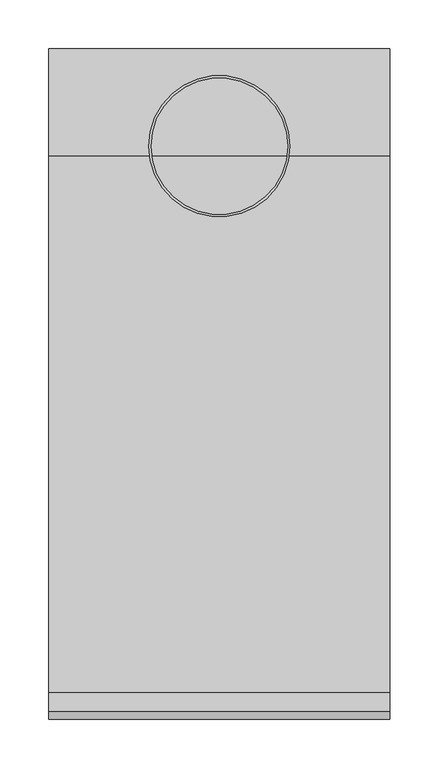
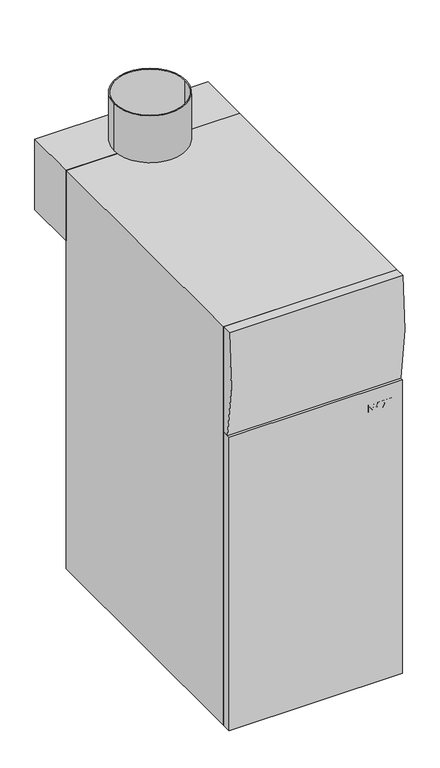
"""IFC4 building model written with IfcOpenShell, lengths in millimetres: proxy geometry, BAXI_ГазовыйКотел_Slim-iN : BAXI_Газовый котел_Slim_1.300_iN."""

from ifc_helpers import new_model, si_unit, point, frame, frame_2d, origin, origin_with_axes, place, context, project, spatial, polyline, circle_curve, trimmed, segment, composite_curve, outline, extrude, source, transform, mapped, element, save


def mechanical_equipment_463e2e80(model_context):
    return source(origin(), model_context, "Body", "SweptSolid", [
        extrude(outline(composite_curve([segment(trimmed(circle_curve(frame_2d((0.0, -100.0)), 72.5), [point((-72.5, -100.0))], [point((72.5, -100.0))], False, "CARTESIAN"), True, "CONTINUOUS"), segment(trimmed(circle_curve(frame_2d((0.0, -100.0)), 72.5), [point((72.5, -100.0))], [point((-72.5, -100.0))], False, "CARTESIAN"), True, "CONTINUOUS")], self_intersect=False), holes=[composite_curve([segment(trimmed(circle_curve(frame_2d((0.0, -100.0)), 70.0), [point((-70.0, -100.0))], [point((70.0, -100.0))], True, "CARTESIAN"), True, "CONTINUOUS"), segment(trimmed(circle_curve(frame_2d((0.0, -100.0)), 70.0), [point((70.0, -100.0))], [point((-70.0, -100.0))], True, "CARTESIAN"), True, "CONTINUOUS")], self_intersect=False)]), frame((0.0, 0.0, 850.0), z_axis=(0.0, 0.0, 1.0), x_axis=(1.0, 0.0, 0.0)), (0.0, 0.0, 1.0), 100.0),
        extrude(outline(polyline([(175.0, 0.0), (175.0, -110.0), (-175.0, -110.0), (-175.0, 0.0), (175.0, 0.0)])), frame((0.0, 0.0, 700.0), z_axis=(0.0, 0.0, 1.0), x_axis=(1.0, 0.0, 0.0)), (0.0, 0.0, 1.0), 150.0),
        extrude(outline(composite_curve([segment(polyline([(-660.5, 627.0), (-674.6849095, 627.0)]), True, "CONTINUOUS"), segment(trimmed(circle_curve(frame_2d((-72.7028253, 753.9906172)), 615.2308887), [point((-674.6849095, 627.0))], [point((-680.396206, 850.0))], False, "CARTESIAN"), True, "CONTINUOUS"), segment(polyline([(-680.396206, 850.0), (-660.5, 850.0), (-660.5, 627.0)]), True, "CONTINUOUS")], self_intersect=False)), frame((-175.0, 0.0, 0.0), z_axis=(1.0, 0.0, 0.0), x_axis=(0.0, 1.0, 0.0)), (0.0, 0.0, 1.0), 350.0),
        extrude(outline(polyline([(175.0, -660.5), (175.0, -680.0), (-175.0, -680.0), (-175.0, -660.5), (175.0, -660.5)])), origin_with_axes(), (0.0, 0.0, 1.0), 627.0),
        extrude(outline(composite_curve([segment(trimmed(circle_curve(frame_2d((435.0, 133.0)), 7.5), [point((427.5, 133.0))], [point((442.5, 133.0))], False, "CARTESIAN"), True, "CONTINUOUS"), segment(trimmed(circle_curve(frame_2d((435.0, 133.0)), 7.5), [point((442.5, 133.0))], [point((427.5, 133.0))], False, "CARTESIAN"), True, "CONTINUOUS")], self_intersect=False)), frame((0.0, -110.0, 0.0), z_axis=(0.0, 1.0, 0.0), x_axis=(0.0, 0.0, 1.0)), (0.0, 0.0, 1.0), 7.0),
        extrude(outline(composite_curve([segment(trimmed(circle_curve(frame_2d((635.0, -133.0)), 16.0), [point((619.0, -133.0))], [point((651.0, -133.0))], False, "CARTESIAN"), True, "CONTINUOUS"), segment(trimmed(circle_curve(frame_2d((635.0, -133.0)), 16.0), [point((651.0, -133.0))], [point((619.0, -133.0))], False, "CARTESIAN"), True, "CONTINUOUS")], self_intersect=False)), frame((0.0, -110.0, 0.0), z_axis=(0.0, 1.0, 0.0), x_axis=(0.0, 0.0, 1.0)), (0.0, 0.0, 1.0), 7.0),
        extrude(outline(composite_curve([segment(trimmed(circle_curve(frame_2d((60.0, 90.0)), 16.0), [point((44.0, 90.0))], [point((76.0, 90.0))], False, "CARTESIAN"), True, "CONTINUOUS"), segment(trimmed(circle_curve(frame_2d((60.0, 90.0)), 16.0), [point((76.0, 90.0))], [point((44.0, 90.0))], False, "CARTESIAN"), True, "CONTINUOUS")], self_intersect=False)), frame((0.0, -110.0, 0.0), z_axis=(0.0, 1.0, 0.0), x_axis=(0.0, 0.0, 1.0)), (0.0, 0.0, 1.0), 7.0),
        extrude(outline(polyline([(175.0, -110.0), (175.0, -660.5), (-175.0, -660.5), (-175.0, -110.0), (175.0, -110.0)])), origin_with_axes(), (0.0, 0.0, 1.0), 850.0),
        extrude(outline(polyline([(596.3910755, 105.6468806), (581.0871845, 105.6468806), (581.0871845, 110.8772283), (581.1896659, 114.6196977), (581.9127292, 116.7015886), (583.4803152, 118.033847), (585.5014764, 118.5215826), (587.7978192, 117.8421688), (589.1794205, 115.8988175), (590.5344525, 117.4607102), (592.5157598, 118.0357448), (594.3167758, 117.5537026), (595.6034868, 116.3485971), (596.2392511, 114.7088945), (596.3910755, 111.9286117), (596.3910755, 105.6468806)]), holes=[polyline([(593.7189675, 108.5619075), (593.7189675, 110.5128499), (590.3674457, 113.2532788), (590.3181028, 110.7861337), (590.3181028, 108.5619075), (593.7189675, 108.5619075)]), polyline([(587.6459949, 108.5619075), (587.6459949, 111.2529935), (583.850387, 113.928897), (583.7592924, 111.6439411), (583.7592924, 108.5619075), (587.6459949, 108.5619075)])]), frame((0.0, -680.0, 0.0), z_axis=(0.0, 1.0, 0.0), x_axis=(0.0, 0.0, 1.0)), (0.0, 0.0, 1.0), 5.0),
        extrude(outline(polyline([(581.0871845, 133.8254736), (596.3910755, 128.1852003), (596.3910755, 125.080393), (581.0871845, 119.4932582), (581.0871845, 122.5980655), (584.4880491, 123.7822951), (584.4880491, 129.5630059), (581.0871845, 130.762418), (581.0871845, 133.8254736)]), holes=[polyline([(587.1601571, 128.6292864), (587.1601571, 124.7160147), (592.7472919, 126.6593659), (587.1601571, 128.6292864)])]), frame((0.0, -680.0, 0.0), z_axis=(0.0, 1.0, 0.0), x_axis=(0.0, 0.0, 1.0)), (0.0, 0.0, 1.0), 5.0),
        extrude(outline(polyline([(581.0871845, 133.946933), (581.0871845, 137.3553889), (586.4921301, 140.8701218), (581.0871845, 144.3848547), (581.0871845, 147.7933106), (589.1110995, 142.5743498), (596.3910755, 147.3074728), (596.3910755, 143.8990169), (591.7338646, 140.8701218), (596.3910755, 137.8412267), (596.3910755, 134.4327708), (589.1110995, 139.1658939), (581.0871845, 133.946933)])), frame((0.0, -680.0, 0.0), z_axis=(0.0, 1.0, 0.0), x_axis=(0.0, 0.0, 1.0)), (0.0, 0.0, 1.0), 5.0),
        extrude(outline(polyline([(149.3722835, -675.0), (152.2873103, -675.0), (152.2873103, -680.0), (149.3722835, -680.0), (149.3722835, -675.0)])), frame((0.0, 0.0, 581.0871845), z_axis=(0.0, 0.0, 1.0), x_axis=(1.0, 0.0, 0.0)), (0.0, 0.0, 1.0), 15.303891),
    ])


if __name__ == "__main__":
    model = new_model("IFC4")
    model_context = context("Model", 3, world=origin())
    ifc_project = project(units=[si_unit("LENGTHUNIT", "METRE", prefix="MILLI")], contexts=[model_context])
    site = spatial("IfcSite", under=ifc_project)
    building = spatial("IfcBuilding", under=site)
    placement = place(None, origin())
    mechanical_equipment_shape = mechanical_equipment_463e2e80(model_context)
    element("IfcBuildingElementProxy", 1, Name="BAXI_ГазовыйКотел_Slim-iN : BAXI_Газовый котел_Slim_1.300_iN", ObjectType="BAXI_ГазовыйКотел_Slim-iN : BAXI_Газовый котел_Slim_1.300_iN", at=placement, inside=building, context=model_context, shape_type="MappedRepresentation", body=[
        mapped(mechanical_equipment_shape, transform((0.0, 0.0, 0.0), x_axis=(1.0, 0.0, 0.0), y_axis=(0.0, 1.0, 0.0), z_axis=(0.0, 0.0, 1.0))),
    ])
    save(model, "model.ifc")
